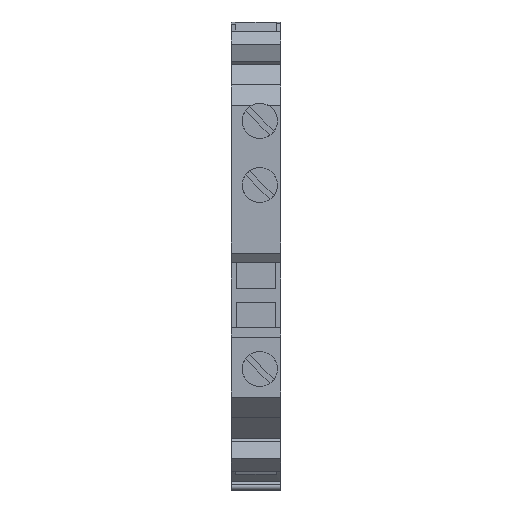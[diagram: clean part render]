
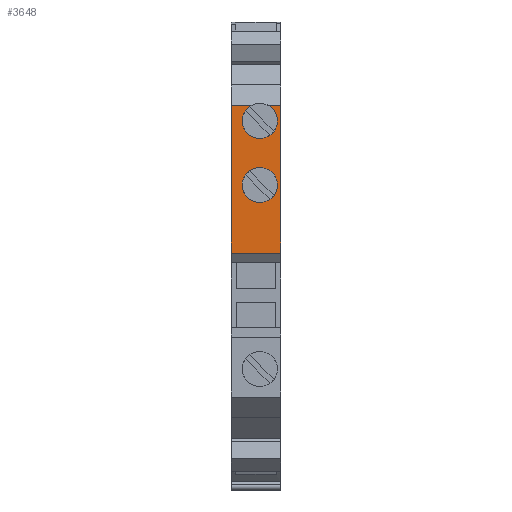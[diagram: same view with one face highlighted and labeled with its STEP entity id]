
A CAD part, top view. The second image highlights one B-rep face of the part: STEP entity #3648.
In plain terms, the highlighted planar face has unit normal (0, 0, 1).
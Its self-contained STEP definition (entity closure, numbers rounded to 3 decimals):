
#197=CARTESIAN_POINT('',(0.,29.2,46.85));
#198=VERTEX_POINT('',#197);
#205=CARTESIAN_POINT('',(0.,47.4,46.85));
#206=VERTEX_POINT('',#205);
#207=CARTESIAN_POINT('',(0.,29.2,46.85));
#208=DIRECTION('',(0.,1.,-0.));
#209=VECTOR('',#208,18.2);
#210=LINE('',#207,#209);
#211=EDGE_CURVE('',#198,#206,#210,.T.);
#1263=CARTESIAN_POINT('',(6.15,47.4,46.85));
#1264=VERTEX_POINT('',#1263);
#1271=CARTESIAN_POINT('',(6.15,29.2,46.85));
#1272=VERTEX_POINT('',#1271);
#1273=CARTESIAN_POINT('',(6.15,29.2,46.85));
#1274=DIRECTION('',(0.,1.,-0.));
#1275=VECTOR('',#1274,18.2);
#1276=LINE('',#1273,#1275);
#1277=EDGE_CURVE('',#1272,#1264,#1276,.T.);
#2699=CARTESIAN_POINT('',(2.448,47.4,46.85));
#2700=VERTEX_POINT('',#2699);
#2701=CARTESIAN_POINT('',(2.448,47.4,46.85));
#2702=DIRECTION('',(-1.,0.,0.));
#2703=VECTOR('',#2702,2.448);
#2704=LINE('',#2701,#2703);
#2705=EDGE_CURVE('',#2700,#206,#2704,.T.);
#2715=CARTESIAN_POINT('',(4.652,47.4,46.85));
#2716=VERTEX_POINT('',#2715);
#2723=CARTESIAN_POINT('',(6.15,47.4,46.85));
#2724=DIRECTION('',(-1.,0.,0.));
#2725=VECTOR('',#2724,1.498);
#2726=LINE('',#2723,#2725);
#2727=EDGE_CURVE('',#1264,#2716,#2726,.T.);
#2746=CARTESIAN_POINT('',(3.55,43.35,46.85));
#2747=VERTEX_POINT('',#2746);
#2830=CARTESIAN_POINT('',(3.55,45.525,46.85));
#2831=DIRECTION('',(-0.,-0.,-1.));
#2832=DIRECTION('',(0.,1.,-0.));
#2833=AXIS2_PLACEMENT_3D('',#2830,#2831,#2832);
#2834=CIRCLE('',#2833,2.175);
#2835=EDGE_CURVE('',#2716,#2747,#2834,.T.);
#2839=CARTESIAN_POINT('',(3.55,45.525,46.85));
#2840=DIRECTION('',(-0.,-0.,-1.));
#2841=DIRECTION('',(0.,1.,-0.));
#2842=AXIS2_PLACEMENT_3D('',#2839,#2840,#2841);
#2843=CIRCLE('',#2842,2.175);
#2844=EDGE_CURVE('',#2747,#2700,#2843,.T.);
#3605=CARTESIAN_POINT('',(6.15,29.2,46.85));
#3606=DIRECTION('',(-1.,0.,0.));
#3607=VECTOR('',#3606,6.15);
#3608=LINE('',#3605,#3607);
#3609=EDGE_CURVE('',#1272,#198,#3608,.T.);
#3614=CARTESIAN_POINT('',(-0.157,28.742,46.85));
#3615=DIRECTION('',(0.,0.,1.));
#3616=DIRECTION('',(0.,1.,-0.));
#3617=AXIS2_PLACEMENT_3D('',#3614,#3615,#3616);
#3618=PLANE('',#3617);
#3619=CARTESIAN_POINT('',(3.55,39.775,46.85));
#3620=VERTEX_POINT('',#3619);
#3621=CARTESIAN_POINT('',(3.55,35.425,46.85));
#3622=VERTEX_POINT('',#3621);
#3623=CARTESIAN_POINT('',(3.55,37.6,46.85));
#3624=DIRECTION('',(-0.,-0.,-1.));
#3625=DIRECTION('',(0.,1.,-0.));
#3626=AXIS2_PLACEMENT_3D('',#3623,#3624,#3625);
#3627=CIRCLE('',#3626,2.175);
#3628=EDGE_CURVE('',#3620,#3622,#3627,.T.);
#3629=ORIENTED_EDGE('',*,*,#3628,.T.);
#3630=CARTESIAN_POINT('',(3.55,37.6,46.85));
#3631=DIRECTION('',(-0.,-0.,-1.));
#3632=DIRECTION('',(0.,1.,-0.));
#3633=AXIS2_PLACEMENT_3D('',#3630,#3631,#3632);
#3634=CIRCLE('',#3633,2.175);
#3635=EDGE_CURVE('',#3622,#3620,#3634,.T.);
#3636=ORIENTED_EDGE('',*,*,#3635,.T.);
#3637=EDGE_LOOP('',(#3629,#3636));
#3638=FACE_BOUND('',#3637,.T.);
#3639=ORIENTED_EDGE('',*,*,#211,.F.);
#3640=ORIENTED_EDGE('',*,*,#3609,.F.);
#3641=ORIENTED_EDGE('',*,*,#1277,.T.);
#3642=ORIENTED_EDGE('',*,*,#2727,.T.);
#3643=ORIENTED_EDGE('',*,*,#2835,.T.);
#3644=ORIENTED_EDGE('',*,*,#2844,.T.);
#3645=ORIENTED_EDGE('',*,*,#2705,.T.);
#3646=EDGE_LOOP('',(#3639,#3640,#3641,#3642,#3643,#3644,#3645));
#3647=FACE_BOUND('',#3646,.T.);
#3648=ADVANCED_FACE('',(#3638,#3647),#3618,.T.);
